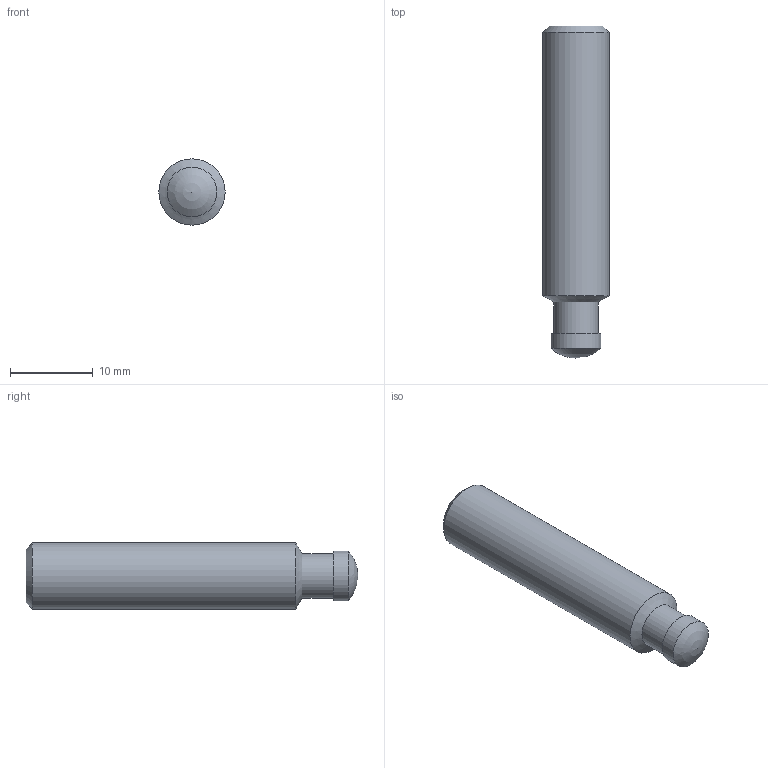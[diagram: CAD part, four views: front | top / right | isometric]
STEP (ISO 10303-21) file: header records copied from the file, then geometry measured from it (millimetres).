
FILE_DESCRIPTION( ( 'STEP AP203' ), '1' );
FILE_NAME( 'C:/Temp/Ganter_Step_05_03_2020/data/3_2/din6332/din6332/Grub screw DIN 6332-M8-40-SKN.stp', '2020-03-13T05:16:28', ( 'License CC BY-ND 4.0' ), ( 'CADENAS' ), ' ', 'PARTsolutions', ' ' );
FILE_SCHEMA( ( 'CONFIG_CONTROL_DESIGN' ) );
Length unit declared in the file: millimetre
Products named in the file (1): _Grub screw DIN 6332-M8-40-SKN
Bounding box: 8 x 40 x 8 mm (x, y, z)
Volume: 1774.1 mm3; surface area: 1057.6 mm2
Topology: 1 solids, 1 shells, 15 faces, 33 edges, 21 vertices
Faces by surface type: plane 9, cylinder 3, cone 2, sphere 1
Full cylindrical faces by diameter (mm): 5.4 x1, 6 x1, 8 x1
Entity records: 410 total; most frequent: DIRECTION 64, CARTESIAN_POINT 61, ORIENTED_EDGE 50, EDGE_CURVE 25, AXIS2_PLACEMENT_3D 23, EDGE_LOOP 22, VERTEX_POINT 20, FACE_OUTER_BOUND 18
